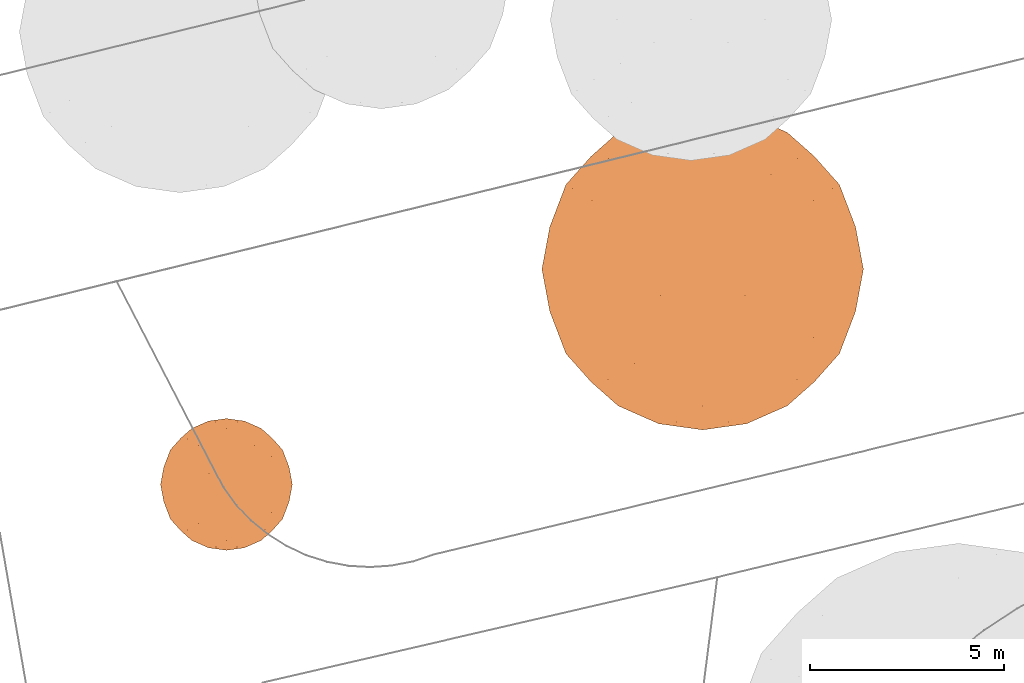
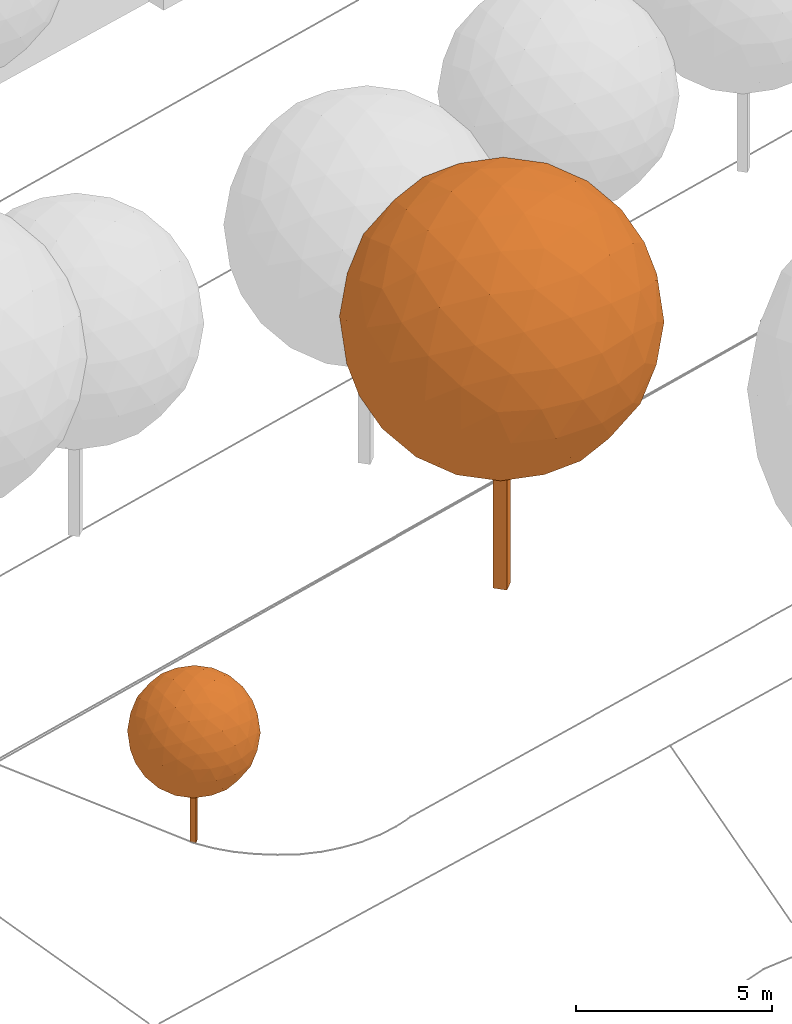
# Not in any storey, part 391 of 477: 2 geographic elements.
"""IFC4 model written with IfcOpenShell, lengths in metres."""

import ifcopenshell
import ifcopenshell.guid

model = None  # the IFC model being written
_history = None  # IfcOwnerHistory: only IFC2X3 demands one
_inside = {}  # id of a spatial element -> (the spatial element, [elements in it])
_under = {}  # id of a project, library or spatial element -> (it, [spatial elements below it])
_declared = {}  # id of a project -> (the project, [libraries it declares])
_typed = {}  # id of a type object -> (the type object, [elements of that type])
_made_of = {}  # id of a material, layer set ... -> (it, [elements and type objects made of it])


def new_model(schema):
    """Start an empty IFC model of exactly this schema.

    Asked for "IFC4X3", IfcOpenShell would pick the latest addendum, in which some entities
    have other attributes; the version numbers below select the first issue.
    IFC2X3 requires an IfcOwnerHistory on every rooted entity: one is made here for all.
    """
    global model, _history
    if schema == "IFC4X3":
        model = ifcopenshell.file(schema_version=(4, 3, 0, 0))
    else:
        model = ifcopenshell.file(schema=schema)
    _inside.clear()
    _under.clear()
    _declared.clear()
    _typed.clear()
    _made_of.clear()
    _history = None
    if model.schema == "IFC2X3":
        org = make("IfcOrganization", Name="unknown")
        user = make(
            "IfcPersonAndOrganization",
            ThePerson=make("IfcPerson", FamilyName="unknown"),
            TheOrganization=org,
        )
        app = make(
            "IfcApplication",
            ApplicationDeveloper=org,
            Version="unknown",
            ApplicationFullName="unknown",
            ApplicationIdentifier="unknown",
        )
        _history = make(
            "IfcOwnerHistory",
            OwningUser=user,
            OwningApplication=app,
            ChangeAction="ADDED",
            CreationDate=0,
        )
    return model


def make(cls, **values):
    """One entity of the class cls with the attributes given. An attribute that is None is left unset."""
    return model.create_entity(
        cls, **{name: value for name, value in values.items() if value is not None}
    )


def rooted(cls, **values):
    """An entity with a GlobalId (a new one), such as an element, a storey or a relation."""
    return make(cls, GlobalId=ifcopenshell.guid.new(), OwnerHistory=_history, **values)


def si_unit(unit_type, name, prefix=None):
    """IfcSIUnit, for example si_unit("LENGTHUNIT", "METRE", prefix="MILLI")."""
    return make("IfcSIUnit", UnitType=unit_type, Prefix=prefix, Name=name)


def assignment(units):
    """IfcUnitAssignment: the units of a project."""
    return None if units is None else make("IfcUnitAssignment", Units=units)


def point(xyz):
    """IfcCartesianPoint."""
    return None if xyz is None else make("IfcCartesianPoint", Coordinates=xyz)


def direction(xyz):
    """IfcDirection."""
    return None if xyz is None else make("IfcDirection", DirectionRatios=xyz)


def frame(location, z_axis=None, x_axis=None):
    """IfcAxis2Placement3D, a coordinate frame: its origin and axes. An axis left out is left unset."""
    return make(
        "IfcAxis2Placement3D",
        Location=point(location),
        Axis=direction(z_axis),
        RefDirection=direction(x_axis),
    )


def origin_with_axes():
    """The frame at (0, 0, 0) with the z axis (0, 0, 1) and the x axis (1, 0, 0) written out."""
    return frame((0.0, 0.0, 0.0), z_axis=(0.0, 0.0, 1.0), x_axis=(1.0, 0.0, 0.0))


def place(relative_to, where):
    """IfcLocalPlacement: puts the frame where relative to a parent placement (None: the world)."""
    return make(
        "IfcLocalPlacement", PlacementRelTo=relative_to, RelativePlacement=where
    )


def context(
    kind, dimensions, precision=None, world=None, true_north=None, identifier=None
):
    """IfcGeometricRepresentationContext, for example the 3D "Model" context."""
    return make(
        "IfcGeometricRepresentationContext",
        ContextIdentifier=identifier,
        ContextType=kind,
        CoordinateSpaceDimension=dimensions,
        Precision=precision,
        WorldCoordinateSystem=world,
        TrueNorth=true_north,
    )


def subcontext(parent, identifier, kind, view, scale=None):
    """IfcGeometricRepresentationSubContext, for example "Body" below "Model"."""
    return make(
        "IfcGeometricRepresentationSubContext",
        ContextIdentifier=identifier,
        ContextType=kind,
        ParentContext=parent,
        TargetScale=scale,
        TargetView=view,
    )


def project(units=None, contexts=None):
    """IfcProject with its units and contexts."""
    return rooted(
        "IfcProject",
        Name="project",
        RepresentationContexts=contexts,
        UnitsInContext=assignment(units),
    )


def spatial(cls, under=None, at=None, **own):
    """A site, building, storey or space (cls), placed at a placement, below another one or the project."""
    s = rooted(cls, ObjectPlacement=at, **own)
    if under is not None:
        _under.setdefault(under.id(), (under, []))[1].append(s)
    return s


def point_list(points):
    """IfcCartesianPointList2D or 3D."""
    cls = (
        "IfcCartesianPointList2D" if len(points[0]) == 2 else "IfcCartesianPointList3D"
    )
    return make(cls, CoordList=points)


def polygons(points, faces, closed=None, point_numbers=None):
    """IfcPolygonalFaceSet: a face is its outer loop, then its inner loops; points numbered from 1."""
    made = []
    for loops in faces:
        if len(loops) == 1:
            made.append(make("IfcIndexedPolygonalFace", CoordIndex=loops[0]))
        else:
            made.append(
                make(
                    "IfcIndexedPolygonalFaceWithVoids",
                    CoordIndex=loops[0],
                    InnerCoordIndices=loops[1:],
                )
            )
    return make(
        "IfcPolygonalFaceSet",
        Coordinates=point_list(points),
        Closed=closed,
        Faces=made,
        PnIndex=point_numbers,
    )


def shape(context_of_items, identifier, shape_type, items):
    """IfcShapeRepresentation: the items that make up one representation, for example the "Body"."""
    return make(
        "IfcShapeRepresentation",
        ContextOfItems=context_of_items,
        RepresentationIdentifier=identifier,
        RepresentationType=shape_type,
        Items=items,
    )


def made_of(thing, what):
    """Note that an element or type object is made of a material, layer set ...; save() writes the relation."""
    if what is not None:
        _made_of.setdefault(what.id(), (what, []))[1].append(thing)
    return thing


def element(
    cls,
    number,
    at=None,
    inside=None,
    cuts=None,
    type_object=None,
    material=None,
    context=None,
    identifier="Body",
    shape_type=None,
    held_by="IfcProductDefinitionShape",
    body=None,
    shapes=None,
    **own,
):
    """One element of the class cls, such as IfcWall. Its Tag is "e" and its number.

    at: its placement. inside: the storey or other place that contains it. cuts: it is an
    opening in that element (IfcRelVoidsElement). A single representation is given by context,
    identifier, shape_type and body (its items); several are given by shapes. held_by: the class
    of the entity that holds the representations. save() writes the other relations.
    """
    e = rooted(cls, Tag="e%d" % number, ObjectPlacement=at, **own)
    if body is not None:
        shapes = [shape(context, identifier, shape_type, body)]
    if shapes is not None:
        e.Representation = make(held_by, Representations=shapes)
    if inside is not None:
        _inside.setdefault(inside.id(), (inside, []))[1].append(e)
    if cuts is not None:
        rooted(
            "IfcRelVoidsElement", RelatingBuildingElement=cuts, RelatedOpeningElement=e
        )
    if type_object is not None:
        _typed.setdefault(type_object.id(), (type_object, []))[1].append(e)
    return made_of(e, material)


def aggregate(whole, parts):
    """IfcRelAggregates: a whole, such as a stair, and the parts it consists of."""
    return rooted("IfcRelAggregates", RelatingObject=whole, RelatedObjects=parts)


def save(model, path):
    """Write the relations noted so far, then the file.

    IfcRelAggregates (storeys below a building ...), IfcRelContainedInSpatialStructure (elements
    in a storey), IfcRelDefinesByType, IfcRelAssociatesMaterial and IfcRelDeclares: one each for
    every whole, place, type object, material and project.
    """
    for whole, parts in _under.values():
        aggregate(whole, parts)
    for where, things in _inside.values():
        rooted(
            "IfcRelContainedInSpatialStructure",
            RelatedElements=things,
            RelatingStructure=where,
        )
    for kind, things in _typed.values():
        rooted("IfcRelDefinesByType", RelatedObjects=things, RelatingType=kind)
    for what, things in _made_of.values():
        rooted("IfcRelAssociatesMaterial", RelatedObjects=things, RelatingMaterial=what)
    for by, libraries in _declared.values():
        rooted("IfcRelDeclares", RelatingContext=by, RelatedDefinitions=libraries)
    model.write(path)


model = new_model("IFC4")

# Units and contexts
model_context = context("Model", 3, precision=1e-05, world=origin_with_axes())
body_context = subcontext(model_context, "Body", "Model", "MODEL_VIEW")
ifc_project = project(units=[si_unit("AREAUNIT", "SQUARE_METRE"), si_unit("LENGTHUNIT", "METRE")], contexts=[model_context])

# Sites
site_1_placement = place(None, origin_with_axes())
site_1 = spatial("IfcSite", under=ifc_project, at=site_1_placement, Name="Topoexport Site")
site_2_placement = place(site_1_placement, origin_with_axes())
site_2 = spatial("IfcSite", under=site_1, at=site_2_placement, Name="TPX_TREES")

# Geographic elements
geographic_element_1_placement = place(site_2_placement, frame((241.9787320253, 346.7317325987, 540.6494375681), z_axis=(0.0, 0.0, 1.0), x_axis=(1.0, 0.0, 0.0)))
element("IfcGeographicElement", 1, at=geographic_element_1_placement, inside=site_2, Name="Tree TR2 CD83", ObjectType="VEGETATION", PredefinedType="USERDEFINED", context=body_context, shape_type="Tessellation", body=[
    polygons([(0.0, -0.2643440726, 0.0), (-0.2643440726, 0.0, 0.0), (0.0, 0.2643440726, 0.0), (0.2643440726, 0.0, 0.0), (0.0, -0.2643440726, 8.3046139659), (-0.2643440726, 0.0, 8.3046139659), (0.0, 0.2643440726, 8.3046139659), (0.2643440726, 0.0, 8.3046139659)], [[[3, 4, 1]], [[1, 2, 3]], [[5, 8, 7]], [[7, 6, 5]], [[5, 6, 1]], [[1, 6, 2]], [[6, 7, 2]], [[2, 7, 3]], [[8, 5, 4]], [[4, 5, 1]], [[7, 8, 3]], [[3, 8, 4]]]),
    polygons([(-2.182996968, 3.5321632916, 8.3046139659), (2.182996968, 3.5321632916, 8.3046139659), (-2.182996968, -3.5321632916, 8.3046139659), (2.182996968, -3.5321632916, 8.3046139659), (0.0, -2.182996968, 11.8367772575), (0.0, 2.182996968, 11.8367772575), (0.0, -2.182996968, 4.7724506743), (0.0, 2.182996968, 4.7724506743), (3.5321632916, 0.0, 6.1216169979), (3.5321632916, 0.0, 10.4876109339), (-3.5321632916, 0.0, 6.1216169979), (-3.5321632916, 0.0, 10.4876109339), (0.0, 4.152306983, 8.3046139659), (0.0, -4.152306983, 8.3046139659), (-1.2831334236, -3.3592869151, 10.3807674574), (1.2831334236, -3.3592869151, 10.3807674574), (-1.2831334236, 3.3592869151, 10.3807674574), (1.2831334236, 3.3592869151, 10.3807674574), (0.0, 0.0, 12.4569209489), (-1.2831334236, -3.3592869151, 6.2284604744), (1.2831334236, -3.3592869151, 6.2284604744), (-1.2831334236, 3.3592869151, 6.2284604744), (1.2831334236, 3.3592869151, 6.2284604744), (0.0, 0.0, 4.152306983), (3.3592869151, 2.0761534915, 7.0214805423), (3.3592869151, -2.0761534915, 7.0214805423), (2.0761534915, -1.2831334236, 4.9453270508), (2.0761534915, 1.2831334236, 4.9453270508), (3.3592869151, 2.0761534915, 9.5877473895), (3.3592869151, -2.0761534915, 9.5877473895), (2.0761534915, -1.2831334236, 11.663900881), (2.0761534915, 1.2831334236, 11.663900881), (4.152306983, 0.0, 8.3046139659), (-3.3592869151, 2.0761534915, 7.0214805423), (-3.3592869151, -2.0761534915, 7.0214805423), (-2.0761534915, -1.2831334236, 4.9453270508), (-2.0761534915, 1.2831334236, 4.9453270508), (-3.3592869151, 2.0761534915, 9.5877473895), (-3.3592869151, -2.0761534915, 9.5877473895), (-2.0761534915, -1.2831334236, 11.663900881), (-2.0761534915, 1.2831334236, 11.663900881), (-4.152306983, 0.0, 8.3046139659), (-1.1346865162, 3.9942633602, 8.3046139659), (1.1346865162, 3.9942633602, 8.3046139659), (-1.1346865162, -3.9942633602, 8.3046139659), (1.1346865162, -3.9942633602, 8.3046139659), (-1.8016385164, -3.5820643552, 9.3837649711), (-0.6669520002, -2.8807895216, 11.2197263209), (-0.6745831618, -3.9490786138, 9.3961124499), (1.8016385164, -3.5820643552, 9.3837649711), (0.6669520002, -2.8807895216, 11.2197263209), (0.6745831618, -3.9490786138, 9.3961124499), (0.0, -3.5321632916, 10.4876109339), (-1.8016385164, 3.5820643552, 9.3837649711), (-0.6669520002, 2.8807895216, 11.2197263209), (-0.6745831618, 3.9490786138, 9.3961124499), (1.8016385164, 3.5820643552, 9.3837649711), (0.6669520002, 2.8807895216, 11.2197263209), (0.6745831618, 3.9490786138, 9.3961124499), (0.0, 3.5321632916, 10.4876109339), (0.0, -1.1346865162, 12.2988773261), (0.0, 1.1346865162, 12.2988773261), (-1.8016385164, -3.5820643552, 7.2254629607), (-0.6669520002, -2.8807895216, 5.3895016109), (-0.6745831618, -3.9490786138, 7.2131154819), (1.8016385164, -3.5820643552, 7.2254629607), (0.6669520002, -2.8807895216, 5.3895016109), (0.6745831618, -3.9490786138, 7.2131154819), (0.0, -3.5321632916, 6.1216169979), (-1.8016385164, 3.5820643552, 7.2254629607), (-0.6669520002, 2.8807895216, 5.3895016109), (-0.6745831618, 3.9490786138, 7.2131154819), (1.8016385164, 3.5820643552, 7.2254629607), (0.6669520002, 2.8807895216, 5.3895016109), (0.6745831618, 3.9490786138, 7.2131154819), (0.0, 3.5321632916, 6.1216169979), (0.0, -1.1346865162, 4.3103506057), (0.0, 1.1346865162, 4.3103506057), (2.8807895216, 2.915112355, 7.6376619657), (3.5820643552, 1.0791510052, 6.5029754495), (2.4406648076, 2.8575801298, 6.5385323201), (2.8807895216, -2.915112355, 7.6376619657), (3.5820643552, -1.0791510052, 6.5029754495), (2.4406648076, -2.8575801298, 6.5385323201), (1.0791510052, -1.8016385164, 4.7225496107), (2.915112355, -0.6669520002, 5.4238244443), (1.7660816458, -2.4406648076, 5.4470338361), (1.091498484, -0.6745831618, 4.3555353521), (2.8575801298, -1.7660816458, 5.8639491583), (1.0791510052, 1.8016385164, 4.7225496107), (2.915112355, 0.6669520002, 5.4238244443), (1.7660816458, 2.4406648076, 5.4470338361), (1.091498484, 0.6745831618, 4.3555353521), (2.8575801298, 1.7660816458, 5.8639491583), (2.182996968, 0.0, 4.7724506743), (2.8807895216, 2.915112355, 8.9715659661), (3.5820643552, 1.0791510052, 10.1062524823), (2.4406648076, 2.8575801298, 10.0706956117), (3.5321632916, 2.182996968, 8.3046139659), (2.8807895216, -2.915112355, 8.9715659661), (3.5820643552, -1.0791510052, 10.1062524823), (2.4406648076, -2.8575801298, 10.0706956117), (3.5321632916, -2.182996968, 8.3046139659), (1.0791510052, -1.8016385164, 11.8866783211), (2.915112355, -0.6669520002, 11.1854034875), (1.7660816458, -2.4406648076, 11.1621940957), (1.091498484, -0.6745831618, 12.2536925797), (2.8575801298, -1.7660816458, 10.7452787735), (1.0791510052, 1.8016385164, 11.8866783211), (2.915112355, 0.6669520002, 11.1854034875), (1.7660816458, 2.4406648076, 11.1621940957), (1.091498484, 0.6745831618, 12.2536925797), (2.8575801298, 1.7660816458, 10.7452787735), (2.182996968, 0.0, 11.8367772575), (3.9942633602, 0.0, 7.1699274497), (3.9942633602, 0.0, 9.4393004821), (3.9490786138, 1.091498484, 7.6300308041), (3.9490786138, -1.091498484, 7.6300308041), (3.9490786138, 1.091498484, 8.9791971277), (3.9490786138, -1.091498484, 8.9791971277), (-2.8807895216, 2.915112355, 7.6376619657), (-3.5820643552, 1.0791510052, 6.5029754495), (-2.4406648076, 2.8575801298, 6.5385323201), (-2.8807895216, -2.915112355, 7.6376619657), (-3.5820643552, -1.0791510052, 6.5029754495), (-2.4406648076, -2.8575801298, 6.5385323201), (-1.0791510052, -1.8016385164, 4.7225496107), (-2.915112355, -0.6669520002, 5.4238244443), (-1.7660816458, -2.4406648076, 5.4470338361), (-1.091498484, -0.6745831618, 4.3555353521), (-2.8575801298, -1.7660816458, 5.8639491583), (-1.0791510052, 1.8016385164, 4.7225496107), (-2.915112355, 0.6669520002, 5.4238244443), (-1.7660816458, 2.4406648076, 5.4470338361), (-1.091498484, 0.6745831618, 4.3555353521), (-2.8575801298, 1.7660816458, 5.8639491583), (-2.182996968, 0.0, 4.7724506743), (-2.8807895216, 2.915112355, 8.9715659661), (-3.5820643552, 1.0791510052, 10.1062524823), (-2.4406648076, 2.8575801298, 10.0706956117), (-3.5321632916, 2.182996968, 8.3046139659), (-2.8807895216, -2.915112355, 8.9715659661), (-3.5820643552, -1.0791510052, 10.1062524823), (-2.4406648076, -2.8575801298, 10.0706956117), (-3.5321632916, -2.182996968, 8.3046139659), (-1.0791510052, -1.8016385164, 11.8866783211), (-2.915112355, -0.6669520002, 11.1854034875), (-1.7660816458, -2.4406648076, 11.1621940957), (-1.091498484, -0.6745831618, 12.2536925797), (-2.8575801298, -1.7660816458, 10.7452787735), (-1.0791510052, 1.8016385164, 11.8866783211), (-2.915112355, 0.6669520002, 11.1854034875), (-1.7660816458, 2.4406648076, 11.1621940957), (-1.091498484, 0.6745831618, 12.2536925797), (-2.8575801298, 1.7660816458, 10.7452787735), (-2.182996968, 0.0, 11.8367772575), (-3.9942633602, 0.0, 7.1699274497), (-3.9942633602, 0.0, 9.4393004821), (-3.9490786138, 1.091498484, 7.6300308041), (-3.9490786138, -1.091498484, 7.6300308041), (-3.9490786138, 1.091498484, 8.9791971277), (-3.9490786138, -1.091498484, 8.9791971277)], [[[1, 138, 54]], [[138, 38, 140]], [[54, 140, 17]], [[138, 140, 54]], [[38, 139, 155]], [[139, 12, 152]], [[155, 152, 41]], [[139, 152, 155]], [[17, 153, 55]], [[153, 41, 151]], [[55, 151, 6]], [[153, 151, 55]], [[38, 155, 140]], [[155, 41, 153]], [[140, 153, 17]], [[155, 153, 140]], [[1, 54, 43]], [[54, 17, 56]], [[43, 56, 13]], [[54, 56, 43]], [[17, 55, 60]], [[55, 6, 58]], [[60, 58, 18]], [[55, 58, 60]], [[13, 59, 44]], [[59, 18, 57]], [[44, 57, 2]], [[59, 57, 44]], [[17, 60, 56]], [[60, 18, 59]], [[56, 59, 13]], [[60, 59, 56]], [[1, 43, 70]], [[43, 13, 72]], [[70, 72, 22]], [[43, 72, 70]], [[13, 44, 75]], [[44, 2, 73]], [[75, 73, 23]], [[44, 73, 75]], [[22, 76, 71]], [[76, 23, 74]], [[71, 74, 8]], [[76, 74, 71]], [[13, 75, 72]], [[75, 23, 76]], [[72, 76, 22]], [[75, 76, 72]], [[1, 70, 121]], [[70, 22, 123]], [[121, 123, 34]], [[70, 123, 121]], [[22, 71, 134]], [[71, 8, 132]], [[134, 132, 37]], [[71, 132, 134]], [[34, 136, 122]], [[136, 37, 133]], [[122, 133, 11]], [[136, 133, 122]], [[22, 134, 123]], [[134, 37, 136]], [[123, 136, 34]], [[134, 136, 123]], [[1, 121, 138]], [[121, 34, 141]], [[138, 141, 38]], [[121, 141, 138]], [[34, 122, 159]], [[122, 11, 157]], [[159, 157, 42]], [[122, 157, 159]], [[38, 161, 139]], [[161, 42, 158]], [[139, 158, 12]], [[161, 158, 139]], [[34, 159, 141]], [[159, 42, 161]], [[141, 161, 38]], [[159, 161, 141]], [[2, 57, 96]], [[57, 18, 98]], [[96, 98, 29]], [[57, 98, 96]], [[18, 58, 111]], [[58, 6, 109]], [[111, 109, 32]], [[58, 109, 111]], [[29, 113, 97]], [[113, 32, 110]], [[97, 110, 10]], [[113, 110, 97]], [[18, 111, 98]], [[111, 32, 113]], [[98, 113, 29]], [[111, 113, 98]], [[6, 151, 62]], [[151, 41, 154]], [[62, 154, 19]], [[151, 154, 62]], [[41, 152, 156]], [[152, 12, 147]], [[156, 147, 40]], [[152, 147, 156]], [[19, 149, 61]], [[149, 40, 146]], [[61, 146, 5]], [[149, 146, 61]], [[41, 156, 154]], [[156, 40, 149]], [[154, 149, 19]], [[156, 149, 154]], [[12, 158, 143]], [[158, 42, 162]], [[143, 162, 39]], [[158, 162, 143]], [[42, 157, 160]], [[157, 11, 125]], [[160, 125, 35]], [[157, 125, 160]], [[39, 145, 142]], [[145, 35, 124]], [[142, 124, 3]], [[145, 124, 142]], [[42, 160, 162]], [[160, 35, 145]], [[162, 145, 39]], [[160, 145, 162]], [[11, 133, 128]], [[133, 37, 137]], [[128, 137, 36]], [[133, 137, 128]], [[37, 132, 135]], [[132, 8, 78]], [[135, 78, 24]], [[132, 78, 135]], [[36, 130, 127]], [[130, 24, 77]], [[127, 77, 7]], [[130, 77, 127]], [[37, 135, 137]], [[135, 24, 130]], [[137, 130, 36]], [[135, 130, 137]], [[8, 74, 90]], [[74, 23, 92]], [[90, 92, 28]], [[74, 92, 90]], [[23, 73, 81]], [[73, 2, 79]], [[81, 79, 25]], [[73, 79, 81]], [[28, 94, 91]], [[94, 25, 80]], [[91, 80, 9]], [[94, 80, 91]], [[23, 81, 92]], [[81, 25, 94]], [[92, 94, 28]], [[81, 94, 92]], [[4, 100, 50]], [[100, 30, 102]], [[50, 102, 16]], [[100, 102, 50]], [[30, 101, 108]], [[101, 10, 105]], [[108, 105, 31]], [[101, 105, 108]], [[16, 106, 51]], [[106, 31, 104]], [[51, 104, 5]], [[106, 104, 51]], [[30, 108, 102]], [[108, 31, 106]], [[102, 106, 16]], [[108, 106, 102]], [[4, 50, 46]], [[50, 16, 52]], [[46, 52, 14]], [[50, 52, 46]], [[16, 51, 53]], [[51, 5, 48]], [[53, 48, 15]], [[51, 48, 53]], [[14, 49, 45]], [[49, 15, 47]], [[45, 47, 3]], [[49, 47, 45]], [[16, 53, 52]], [[53, 15, 49]], [[52, 49, 14]], [[53, 49, 52]], [[4, 46, 66]], [[46, 14, 68]], [[66, 68, 21]], [[46, 68, 66]], [[14, 45, 65]], [[45, 3, 63]], [[65, 63, 20]], [[45, 63, 65]], [[21, 69, 67]], [[69, 20, 64]], [[67, 64, 7]], [[69, 64, 67]], [[14, 65, 68]], [[65, 20, 69]], [[68, 69, 21]], [[65, 69, 68]], [[4, 66, 82]], [[66, 21, 84]], [[82, 84, 26]], [[66, 84, 82]], [[21, 67, 87]], [[67, 7, 85]], [[87, 85, 27]], [[67, 85, 87]], [[26, 89, 83]], [[89, 27, 86]], [[83, 86, 9]], [[89, 86, 83]], [[21, 87, 84]], [[87, 27, 89]], [[84, 89, 26]], [[87, 89, 84]], [[4, 82, 100]], [[82, 26, 103]], [[100, 103, 30]], [[82, 103, 100]], [[26, 83, 118]], [[83, 9, 115]], [[118, 115, 33]], [[83, 115, 118]], [[30, 120, 101]], [[120, 33, 116]], [[101, 116, 10]], [[120, 116, 101]], [[26, 118, 103]], [[118, 33, 120]], [[103, 120, 30]], [[118, 120, 103]], [[5, 104, 61]], [[104, 31, 107]], [[61, 107, 19]], [[104, 107, 61]], [[31, 105, 114]], [[105, 10, 110]], [[114, 110, 32]], [[105, 110, 114]], [[19, 112, 62]], [[112, 32, 109]], [[62, 109, 6]], [[112, 109, 62]], [[31, 114, 107]], [[114, 32, 112]], [[107, 112, 19]], [[114, 112, 107]], [[3, 47, 142]], [[47, 15, 144]], [[142, 144, 39]], [[47, 144, 142]], [[15, 48, 148]], [[48, 5, 146]], [[148, 146, 40]], [[48, 146, 148]], [[39, 150, 143]], [[150, 40, 147]], [[143, 147, 12]], [[150, 147, 143]], [[15, 148, 144]], [[148, 40, 150]], [[144, 150, 39]], [[148, 150, 144]], [[7, 64, 127]], [[64, 20, 129]], [[127, 129, 36]], [[64, 129, 127]], [[20, 63, 126]], [[63, 3, 124]], [[126, 124, 35]], [[63, 124, 126]], [[36, 131, 128]], [[131, 35, 125]], [[128, 125, 11]], [[131, 125, 128]], [[20, 126, 129]], [[126, 35, 131]], [[129, 131, 36]], [[126, 131, 129]], [[9, 86, 91]], [[86, 27, 95]], [[91, 95, 28]], [[86, 95, 91]], [[27, 85, 88]], [[85, 7, 77]], [[88, 77, 24]], [[85, 77, 88]], [[28, 93, 90]], [[93, 24, 78]], [[90, 78, 8]], [[93, 78, 90]], [[27, 88, 95]], [[88, 24, 93]], [[95, 93, 28]], [[88, 93, 95]], [[10, 116, 97]], [[116, 33, 119]], [[97, 119, 29]], [[116, 119, 97]], [[33, 115, 117]], [[115, 9, 80]], [[117, 80, 25]], [[115, 80, 117]], [[29, 99, 96]], [[99, 25, 79]], [[96, 79, 2]], [[99, 79, 96]], [[33, 117, 119]], [[117, 25, 99]], [[119, 99, 29]], [[117, 99, 119]]]),
])
geographic_element_2_placement = place(site_2_placement, frame((229.6777320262, 341.1707327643, 540.3479917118), z_axis=(0.0, 0.0, 1.0), x_axis=(1.0, 0.0, 0.0)))
element("IfcGeographicElement", 2, at=geographic_element_2_placement, inside=site_2, Name="Tree TR1 CD34", ObjectType="VEGETATION", PredefinedType="USERDEFINED", context=body_context, shape_type="Tessellation", body=[
    polygons([(0.0, -0.1083445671, 0.0), (-0.1083445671, 0.0, 0.0), (0.0, 0.1083445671, 0.0), (0.1083445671, 0.0, 0.0), (0.0, -0.1083445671, 3.4037449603), (-0.1083445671, 0.0, 3.4037449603), (0.0, 0.1083445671, 3.4037449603), (0.1083445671, 0.0, 3.4037449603)], [[[3, 4, 1]], [[1, 2, 3]], [[5, 8, 7]], [[7, 6, 5]], [[5, 6, 1]], [[1, 6, 2]], [[6, 7, 2]], [[2, 7, 3]], [[8, 5, 4]], [[4, 5, 1]], [[7, 8, 3]], [[3, 8, 4]]]),
    polygons([(-0.8947273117, 1.4476992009, 3.4037449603), (0.8947273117, 1.4476992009, 3.4037449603), (-0.8947273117, -1.4476992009, 3.4037449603), (0.8947273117, -1.4476992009, 3.4037449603), (0.0, -0.8947273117, 4.8514441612), (0.0, 0.8947273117, 4.8514441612), (0.0, -0.8947273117, 1.9560457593), (0.0, 0.8947273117, 1.9560457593), (1.4476992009, 0.0, 2.5090176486), (1.4476992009, 0.0, 4.2984722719), (-1.4476992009, 0.0, 2.5090176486), (-1.4476992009, 0.0, 4.2984722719), (0.0, 1.7018724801, 3.4037449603), (0.0, -1.7018724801, 3.4037449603), (-0.5259075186, -1.3768437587, 4.2546812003), (0.5259075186, -1.3768437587, 4.2546812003), (-0.5259075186, 1.3768437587, 4.2546812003), (0.5259075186, 1.3768437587, 4.2546812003), (0.0, 0.0, 5.1056174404), (-0.5259075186, -1.3768437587, 2.5528087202), (0.5259075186, -1.3768437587, 2.5528087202), (-0.5259075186, 1.3768437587, 2.5528087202), (0.5259075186, 1.3768437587, 2.5528087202), (0.0, 0.0, 1.7018724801), (1.3768437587, 0.8509362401, 2.8778374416), (1.3768437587, -0.8509362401, 2.8778374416), (0.8509362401, -0.5259075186, 2.0269012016), (0.8509362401, 0.5259075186, 2.0269012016), (1.3768437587, 0.8509362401, 3.9296524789), (1.3768437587, -0.8509362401, 3.9296524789), (0.8509362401, -0.5259075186, 4.7805887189), (0.8509362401, 0.5259075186, 4.7805887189), (1.7018724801, 0.0, 3.4037449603), (-1.3768437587, 0.8509362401, 2.8778374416), (-1.3768437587, -0.8509362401, 2.8778374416), (-0.8509362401, -0.5259075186, 2.0269012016), (-0.8509362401, 0.5259075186, 2.0269012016), (-1.3768437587, 0.8509362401, 3.9296524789), (-1.3768437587, -0.8509362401, 3.9296524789), (-0.8509362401, -0.5259075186, 4.7805887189), (-0.8509362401, 0.5259075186, 4.7805887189), (-1.7018724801, 0.0, 3.4037449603), (-0.4650647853, 1.6370964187, 3.4037449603), (0.4650647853, 1.6370964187, 3.4037449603), (-0.4650647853, -1.6370964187, 3.4037449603), (0.4650647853, -1.6370964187, 3.4037449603), (-0.7384230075, -1.4681517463, 3.8460478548), (-0.2733582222, -1.180725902, 4.5985384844), (-0.2764859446, -1.6185769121, 3.8511086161), (0.7384230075, -1.4681517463, 3.8460478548), (0.2733582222, -1.180725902, 4.5985384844), (0.2764859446, -1.6185769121, 3.8511086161), (0.0, -1.4476992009, 4.2984722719), (-0.7384230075, 1.4681517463, 3.8460478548), (-0.2733582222, 1.180725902, 4.5985384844), (-0.2764859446, 1.6185769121, 3.8511086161), (0.7384230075, 1.4681517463, 3.8460478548), (0.2733582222, 1.180725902, 4.5985384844), (0.2764859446, 1.6185769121, 3.8511086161), (0.0, 1.4476992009, 4.2984722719), (0.0, -0.4650647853, 5.040841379), (0.0, 0.4650647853, 5.040841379), (-0.7384230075, -1.4681517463, 2.9614420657), (-0.2733582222, -1.180725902, 2.2089514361), (-0.2764859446, -1.6185769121, 2.9563813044), (0.7384230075, -1.4681517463, 2.9614420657), (0.2733582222, -1.180725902, 2.2089514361), (0.2764859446, -1.6185769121, 2.9563813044), (0.0, -1.4476992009, 2.5090176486), (-0.7384230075, 1.4681517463, 2.9614420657), (-0.2733582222, 1.180725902, 2.2089514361), (-0.2764859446, 1.6185769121, 2.9563813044), (0.7384230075, 1.4681517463, 2.9614420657), (0.2733582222, 1.180725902, 2.2089514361), (0.2764859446, 1.6185769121, 2.9563813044), (0.0, 1.4476992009, 2.5090176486), (0.0, -0.4650647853, 1.7666485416), (0.0, 0.4650647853, 1.7666485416), (1.180725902, 1.1947935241, 3.1303867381), (1.4681517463, 0.4423028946, 2.6653219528), (1.0003355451, 1.1712132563, 2.6798953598), (1.180725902, -1.1947935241, 3.1303867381), (1.4681517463, -0.4423028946, 2.6653219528), (1.0003355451, -1.1712132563, 2.6798953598), (0.4423028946, -0.7384230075, 1.935593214), (1.1947935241, -0.2733582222, 2.2230190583), (0.7238496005, -1.0003355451, 2.232531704), (0.4473636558, -0.2764859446, 1.7851680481), (1.1712132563, -0.7238496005, 2.4034094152), (0.4423028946, 0.7384230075, 1.935593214), (1.1947935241, 0.2733582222, 2.2230190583), (0.7238496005, 1.0003355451, 2.232531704), (0.4473636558, 0.2764859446, 1.7851680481), (1.1712132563, 0.7238496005, 2.4034094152), (0.8947273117, 0.0, 1.9560457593), (1.180725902, 1.1947935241, 3.6771031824), (1.4681517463, 0.4423028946, 4.1421679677), (1.0003355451, 1.1712132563, 4.1275945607), (1.4476992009, 0.8947273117, 3.4037449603), (1.180725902, -1.1947935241, 3.6771031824), (1.4681517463, -0.4423028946, 4.1421679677), (1.0003355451, -1.1712132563, 4.1275945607), (1.4476992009, -0.8947273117, 3.4037449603), (0.4423028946, -0.7384230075, 4.8718967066), (1.1947935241, -0.2733582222, 4.5844708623), (0.7238496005, -1.0003355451, 4.5749582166), (0.4473636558, -0.2764859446, 5.0223218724), (1.1712132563, -0.7238496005, 4.4040805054), (0.4423028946, 0.7384230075, 4.8718967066), (1.1947935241, 0.2733582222, 4.5844708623), (0.7238496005, 1.0003355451, 4.5749582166), (0.4473636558, 0.2764859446, 5.0223218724), (1.1712132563, 0.7238496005, 4.4040805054), (0.8947273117, 0.0, 4.8514441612), (1.6370964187, 0.0, 2.938680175), (1.6370964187, 0.0, 3.8688097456), (1.6185769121, 0.4473636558, 3.1272590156), (1.6185769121, -0.4473636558, 3.1272590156), (1.6185769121, 0.4473636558, 3.6802309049), (1.6185769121, -0.4473636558, 3.6802309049), (-1.180725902, 1.1947935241, 3.1303867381), (-1.4681517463, 0.4423028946, 2.6653219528), (-1.0003355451, 1.1712132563, 2.6798953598), (-1.180725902, -1.1947935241, 3.1303867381), (-1.4681517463, -0.4423028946, 2.6653219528), (-1.0003355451, -1.1712132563, 2.6798953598), (-0.4423028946, -0.7384230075, 1.935593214), (-1.1947935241, -0.2733582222, 2.2230190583), (-0.7238496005, -1.0003355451, 2.232531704), (-0.4473636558, -0.2764859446, 1.7851680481), (-1.1712132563, -0.7238496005, 2.4034094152), (-0.4423028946, 0.7384230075, 1.935593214), (-1.1947935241, 0.2733582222, 2.2230190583), (-0.7238496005, 1.0003355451, 2.232531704), (-0.4473636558, 0.2764859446, 1.7851680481), (-1.1712132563, 0.7238496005, 2.4034094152), (-0.8947273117, 0.0, 1.9560457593), (-1.180725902, 1.1947935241, 3.6771031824), (-1.4681517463, 0.4423028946, 4.1421679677), (-1.0003355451, 1.1712132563, 4.1275945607), (-1.4476992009, 0.8947273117, 3.4037449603), (-1.180725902, -1.1947935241, 3.6771031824), (-1.4681517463, -0.4423028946, 4.1421679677), (-1.0003355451, -1.1712132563, 4.1275945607), (-1.4476992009, -0.8947273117, 3.4037449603), (-0.4423028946, -0.7384230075, 4.8718967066), (-1.1947935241, -0.2733582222, 4.5844708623), (-0.7238496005, -1.0003355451, 4.5749582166), (-0.4473636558, -0.2764859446, 5.0223218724), (-1.1712132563, -0.7238496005, 4.4040805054), (-0.4423028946, 0.7384230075, 4.8718967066), (-1.1947935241, 0.2733582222, 4.5844708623), (-0.7238496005, 1.0003355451, 4.5749582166), (-0.4473636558, 0.2764859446, 5.0223218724), (-1.1712132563, 0.7238496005, 4.4040805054), (-0.8947273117, 0.0, 4.8514441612), (-1.6370964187, 0.0, 2.938680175), (-1.6370964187, 0.0, 3.8688097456), (-1.6185769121, 0.4473636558, 3.1272590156), (-1.6185769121, -0.4473636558, 3.1272590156), (-1.6185769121, 0.4473636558, 3.6802309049), (-1.6185769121, -0.4473636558, 3.6802309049)], [[[1, 138, 54]], [[138, 38, 140]], [[54, 140, 17]], [[138, 140, 54]], [[38, 139, 155]], [[139, 12, 152]], [[155, 152, 41]], [[139, 152, 155]], [[17, 153, 55]], [[153, 41, 151]], [[55, 151, 6]], [[153, 151, 55]], [[38, 155, 140]], [[155, 41, 153]], [[140, 153, 17]], [[155, 153, 140]], [[1, 54, 43]], [[54, 17, 56]], [[43, 56, 13]], [[54, 56, 43]], [[17, 55, 60]], [[55, 6, 58]], [[60, 58, 18]], [[55, 58, 60]], [[13, 59, 44]], [[59, 18, 57]], [[44, 57, 2]], [[59, 57, 44]], [[17, 60, 56]], [[60, 18, 59]], [[56, 59, 13]], [[60, 59, 56]], [[1, 43, 70]], [[43, 13, 72]], [[70, 72, 22]], [[43, 72, 70]], [[13, 44, 75]], [[44, 2, 73]], [[75, 73, 23]], [[44, 73, 75]], [[22, 76, 71]], [[76, 23, 74]], [[71, 74, 8]], [[76, 74, 71]], [[13, 75, 72]], [[75, 23, 76]], [[72, 76, 22]], [[75, 76, 72]], [[1, 70, 121]], [[70, 22, 123]], [[121, 123, 34]], [[70, 123, 121]], [[22, 71, 134]], [[71, 8, 132]], [[134, 132, 37]], [[71, 132, 134]], [[34, 136, 122]], [[136, 37, 133]], [[122, 133, 11]], [[136, 133, 122]], [[22, 134, 123]], [[134, 37, 136]], [[123, 136, 34]], [[134, 136, 123]], [[1, 121, 138]], [[121, 34, 141]], [[138, 141, 38]], [[121, 141, 138]], [[34, 122, 159]], [[122, 11, 157]], [[159, 157, 42]], [[122, 157, 159]], [[38, 161, 139]], [[161, 42, 158]], [[139, 158, 12]], [[161, 158, 139]], [[34, 159, 141]], [[159, 42, 161]], [[141, 161, 38]], [[159, 161, 141]], [[2, 57, 96]], [[57, 18, 98]], [[96, 98, 29]], [[57, 98, 96]], [[18, 58, 111]], [[58, 6, 109]], [[111, 109, 32]], [[58, 109, 111]], [[29, 113, 97]], [[113, 32, 110]], [[97, 110, 10]], [[113, 110, 97]], [[18, 111, 98]], [[111, 32, 113]], [[98, 113, 29]], [[111, 113, 98]], [[6, 151, 62]], [[151, 41, 154]], [[62, 154, 19]], [[151, 154, 62]], [[41, 152, 156]], [[152, 12, 147]], [[156, 147, 40]], [[152, 147, 156]], [[19, 149, 61]], [[149, 40, 146]], [[61, 146, 5]], [[149, 146, 61]], [[41, 156, 154]], [[156, 40, 149]], [[154, 149, 19]], [[156, 149, 154]], [[12, 158, 143]], [[158, 42, 162]], [[143, 162, 39]], [[158, 162, 143]], [[42, 157, 160]], [[157, 11, 125]], [[160, 125, 35]], [[157, 125, 160]], [[39, 145, 142]], [[145, 35, 124]], [[142, 124, 3]], [[145, 124, 142]], [[42, 160, 162]], [[160, 35, 145]], [[162, 145, 39]], [[160, 145, 162]], [[11, 133, 128]], [[133, 37, 137]], [[128, 137, 36]], [[133, 137, 128]], [[37, 132, 135]], [[132, 8, 78]], [[135, 78, 24]], [[132, 78, 135]], [[36, 130, 127]], [[130, 24, 77]], [[127, 77, 7]], [[130, 77, 127]], [[37, 135, 137]], [[135, 24, 130]], [[137, 130, 36]], [[135, 130, 137]], [[8, 74, 90]], [[74, 23, 92]], [[90, 92, 28]], [[74, 92, 90]], [[23, 73, 81]], [[73, 2, 79]], [[81, 79, 25]], [[73, 79, 81]], [[28, 94, 91]], [[94, 25, 80]], [[91, 80, 9]], [[94, 80, 91]], [[23, 81, 92]], [[81, 25, 94]], [[92, 94, 28]], [[81, 94, 92]], [[4, 100, 50]], [[100, 30, 102]], [[50, 102, 16]], [[100, 102, 50]], [[30, 101, 108]], [[101, 10, 105]], [[108, 105, 31]], [[101, 105, 108]], [[16, 106, 51]], [[106, 31, 104]], [[51, 104, 5]], [[106, 104, 51]], [[30, 108, 102]], [[108, 31, 106]], [[102, 106, 16]], [[108, 106, 102]], [[4, 50, 46]], [[50, 16, 52]], [[46, 52, 14]], [[50, 52, 46]], [[16, 51, 53]], [[51, 5, 48]], [[53, 48, 15]], [[51, 48, 53]], [[14, 49, 45]], [[49, 15, 47]], [[45, 47, 3]], [[49, 47, 45]], [[16, 53, 52]], [[53, 15, 49]], [[52, 49, 14]], [[53, 49, 52]], [[4, 46, 66]], [[46, 14, 68]], [[66, 68, 21]], [[46, 68, 66]], [[14, 45, 65]], [[45, 3, 63]], [[65, 63, 20]], [[45, 63, 65]], [[21, 69, 67]], [[69, 20, 64]], [[67, 64, 7]], [[69, 64, 67]], [[14, 65, 68]], [[65, 20, 69]], [[68, 69, 21]], [[65, 69, 68]], [[4, 66, 82]], [[66, 21, 84]], [[82, 84, 26]], [[66, 84, 82]], [[21, 67, 87]], [[67, 7, 85]], [[87, 85, 27]], [[67, 85, 87]], [[26, 89, 83]], [[89, 27, 86]], [[83, 86, 9]], [[89, 86, 83]], [[21, 87, 84]], [[87, 27, 89]], [[84, 89, 26]], [[87, 89, 84]], [[4, 82, 100]], [[82, 26, 103]], [[100, 103, 30]], [[82, 103, 100]], [[26, 83, 118]], [[83, 9, 115]], [[118, 115, 33]], [[83, 115, 118]], [[30, 120, 101]], [[120, 33, 116]], [[101, 116, 10]], [[120, 116, 101]], [[26, 118, 103]], [[118, 33, 120]], [[103, 120, 30]], [[118, 120, 103]], [[5, 104, 61]], [[104, 31, 107]], [[61, 107, 19]], [[104, 107, 61]], [[31, 105, 114]], [[105, 10, 110]], [[114, 110, 32]], [[105, 110, 114]], [[19, 112, 62]], [[112, 32, 109]], [[62, 109, 6]], [[112, 109, 62]], [[31, 114, 107]], [[114, 32, 112]], [[107, 112, 19]], [[114, 112, 107]], [[3, 47, 142]], [[47, 15, 144]], [[142, 144, 39]], [[47, 144, 142]], [[15, 48, 148]], [[48, 5, 146]], [[148, 146, 40]], [[48, 146, 148]], [[39, 150, 143]], [[150, 40, 147]], [[143, 147, 12]], [[150, 147, 143]], [[15, 148, 144]], [[148, 40, 150]], [[144, 150, 39]], [[148, 150, 144]], [[7, 64, 127]], [[64, 20, 129]], [[127, 129, 36]], [[64, 129, 127]], [[20, 63, 126]], [[63, 3, 124]], [[126, 124, 35]], [[63, 124, 126]], [[36, 131, 128]], [[131, 35, 125]], [[128, 125, 11]], [[131, 125, 128]], [[20, 126, 129]], [[126, 35, 131]], [[129, 131, 36]], [[126, 131, 129]], [[9, 86, 91]], [[86, 27, 95]], [[91, 95, 28]], [[86, 95, 91]], [[27, 85, 88]], [[85, 7, 77]], [[88, 77, 24]], [[85, 77, 88]], [[28, 93, 90]], [[93, 24, 78]], [[90, 78, 8]], [[93, 78, 90]], [[27, 88, 95]], [[88, 24, 93]], [[95, 93, 28]], [[88, 93, 95]], [[10, 116, 97]], [[116, 33, 119]], [[97, 119, 29]], [[116, 119, 97]], [[33, 115, 117]], [[115, 9, 80]], [[117, 80, 25]], [[115, 80, 117]], [[29, 99, 96]], [[99, 25, 79]], [[96, 79, 2]], [[99, 79, 96]], [[33, 117, 119]], [[117, 25, 99]], [[119, 99, 29]], [[117, 99, 119]]]),
])

save(model, "model.ifc")
